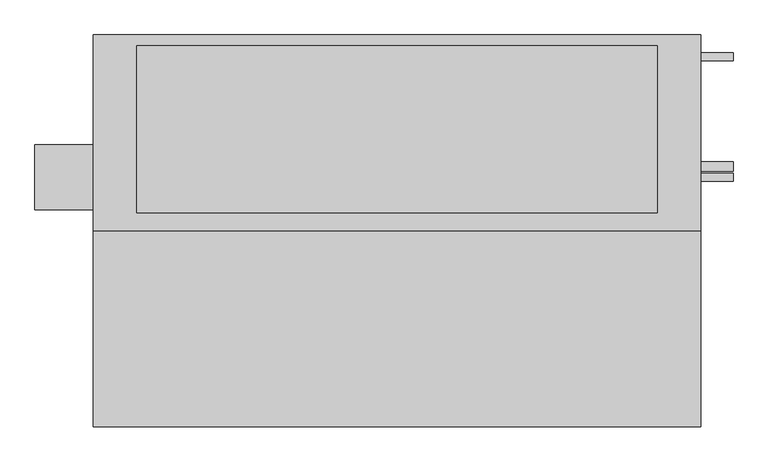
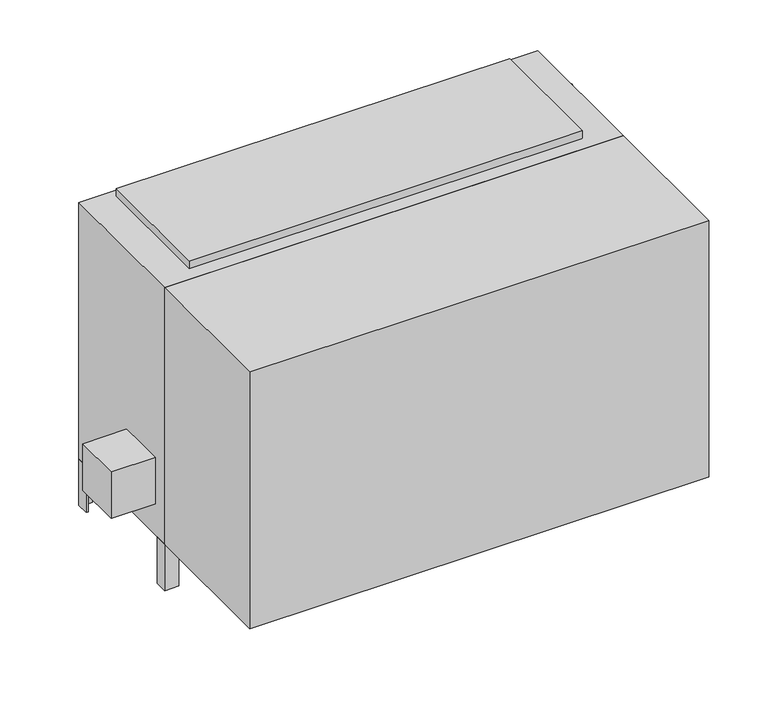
"""IFC4 building model written with IfcOpenShell, lengths in millimetres: proxy geometry, Concealed_High_Capacity_Vertical_Fan_Coil_Unit_-_VEY_-_IEC_-_2-Pipe_Cool-EHeat_RH_2022 : Size 20 - 277v/60Hz/1Ph - 6 Row 14.0kW."""

from ifc_helpers import new_model, si_unit, point, frame, frame_2d, origin, origin_with_axes, place, context, project, spatial, polyline, circle_curve, trimmed, segment, composite_curve, outline, extrude, source, transform, mapped, element, save


def mechanical_equipment_c3129180(model_context):
    return source(origin(), model_context, "Body", "SweptSolid", [
        extrude(outline(polyline([(698.9230703, 747.7868862), (688.975, 779.9602728), (831.1459244, 779.9602728), (808.1239183, 747.7868862), (698.9230703, 747.7868862)])), frame((0.0, -471.4875, 0.0), z_axis=(0.0, 1.0, 0.0), x_axis=(0.0, 0.0, 1.0)), (0.0, 0.0, 1.0), 3.175),
        extrude(outline(polyline([(777.9223557, 786.7186058), (774.7199632, 812.8), (803.9488042, 812.8), (812.0132193, 786.7186058), (777.9223557, 786.7186058)])), frame((0.0, -471.4875, 0.0), z_axis=(0.0, 1.0, 0.0), x_axis=(0.0, 0.0, 1.0)), (0.0, 0.0, 1.0), 3.175),
        extrude(outline(polyline([(726.0588288, 812.8), (722.3933279, 786.7186058), (688.975, 786.7186058), (697.6092372, 812.8), (726.0588288, 812.8)])), frame((0.0, -471.4875, 0.0), z_axis=(0.0, 1.0, 0.0), x_axis=(0.0, 0.0, 1.0)), (0.0, 0.0, 1.0), 3.175),
        extrude(outline(polyline([(765.3739903, 812.8), (767.6558166, 786.7186058), (731.7182681, 786.7186058), (734.4595331, 812.8), (765.3739903, 812.8)])), frame((0.0, -471.4875, 0.0), z_axis=(0.0, 1.0, 0.0), x_axis=(0.0, 0.0, 1.0)), (0.0, 0.0, 1.0), 3.175),
        extrude(outline(polyline([(863.6, -468.3125), (863.6, -925.5125), (-558.8, -925.5125), (-558.8, -468.3125), (863.6, -468.3125)])), origin_with_axes(), (0.0, 0.0, 1.0), 841.375),
        extrude(outline(polyline([(-695.325, -417.5125), (-695.325, -265.1125), (-558.8, -265.1125), (-558.8, -417.5125), (-695.325, -417.5125)])), frame((0.0, 0.0, 101.6), z_axis=(0.0, 0.0, 1.0), x_axis=(1.0, 0.0, 0.0)), (0.0, 0.0, 1.0), 152.4),
        extrude(outline(polyline([(863.6, -46.0375), (857.25, -46.0375), (857.25, -14.2875), (825.5, -14.2875), (825.5, -7.9375), (863.6, -7.9375), (863.6, -46.0375)])), frame((0.0, 0.0, -152.4), z_axis=(0.0, 0.0, 1.0), x_axis=(1.0, 0.0, 0.0)), (0.0, 0.0, 1.0), 152.4),
        extrude(outline(polyline([(-520.7, -7.9375), (-520.7, -14.2875), (-552.45, -14.2875), (-552.45, -46.0375), (-558.8, -46.0375), (-558.8, -7.9375), (-520.7, -7.9375)])), frame((0.0, 0.0, -152.4), z_axis=(0.0, 0.0, 1.0), x_axis=(1.0, 0.0, 0.0)), (0.0, 0.0, 1.0), 152.4),
        extrude(outline(polyline([(825.5, -468.3125), (825.5, -461.9625), (857.25, -461.9625), (857.25, -430.2125), (863.6, -430.2125), (863.6, -468.3125), (825.5, -468.3125)])), frame((0.0, 0.0, -152.4), z_axis=(0.0, 0.0, 1.0), x_axis=(1.0, 0.0, 0.0)), (0.0, 0.0, 1.0), 152.4),
        extrude(outline(polyline([(-558.8, -428.1199163), (-552.45, -428.1199163), (-552.45, -461.9625), (-515.3318533, -461.9625), (-515.3318533, -468.3125), (-558.8, -468.3125), (-558.8, -428.1199163)])), frame((0.0, 0.0, -152.4), z_axis=(0.0, 0.0, 1.0), x_axis=(1.0, 0.0, 0.0)), (0.0, 0.0, 1.0), 152.4),
        extrude(outline(polyline([(762.0, -33.3375), (762.0, -423.8625), (-457.2, -423.8625), (-457.2, -33.3375), (762.0, -33.3375)])), frame((0.0, 0.0, 841.375), z_axis=(0.0, 0.0, 1.0), x_axis=(1.0, 0.0, 0.0)), (0.0, 0.0, 1.0), 25.4),
        extrude(outline(polyline([(838.2, -471.4875), (-533.4, -471.4875), (-533.4, -468.3125), (838.2, -468.3125), (838.2, -471.4875)])), frame((0.0, 0.0, 50.8), z_axis=(0.0, 0.0, 1.0), x_axis=(1.0, 0.0, 0.0)), (0.0, 0.0, 1.0), 304.8),
        extrude(outline(composite_curve([segment(trimmed(circle_curve(frame_2d((-58.7375, 727.075)), 9.525), [point((-49.2125, 727.075))], [point((-68.2625, 727.075))], False, "CARTESIAN"), True, "CONTINUOUS"), segment(trimmed(circle_curve(frame_2d((-58.7375, 727.075)), 9.525), [point((-68.2625, 727.075))], [point((-49.2125, 727.075))], False, "CARTESIAN"), True, "CONTINUOUS")], self_intersect=False)), frame((863.6, 0.0, 0.0), z_axis=(1.0, 0.0, 0.0), x_axis=(0.0, 1.0, 0.0)), (0.0, 0.0, 1.0), 76.2),
        extrude(outline(composite_curve([segment(trimmed(circle_curve(frame_2d((-341.3125, 625.475)), 9.525), [point((-331.7875, 625.475))], [point((-350.8375, 625.475))], False, "CARTESIAN"), True, "CONTINUOUS"), segment(trimmed(circle_curve(frame_2d((-341.3125, 625.475)), 9.525), [point((-350.8375, 625.475))], [point((-331.7875, 625.475))], False, "CARTESIAN"), True, "CONTINUOUS")], self_intersect=False)), frame((863.6, 0.0, 0.0), z_axis=(1.0, 0.0, 0.0), x_axis=(0.0, 1.0, 0.0)), (0.0, 0.0, 1.0), 76.2),
        extrude(outline(composite_curve([segment(trimmed(circle_curve(frame_2d((-315.9125, 536.575)), 11.1125), [point((-304.8, 536.575))], [point((-327.025, 536.575))], False, "CARTESIAN"), True, "CONTINUOUS"), segment(trimmed(circle_curve(frame_2d((-315.9125, 536.575)), 11.1125), [point((-327.025, 536.575))], [point((-304.8, 536.575))], False, "CARTESIAN"), True, "CONTINUOUS")], self_intersect=False)), frame((863.6, 0.0, 0.0), z_axis=(1.0, 0.0, 0.0), x_axis=(0.0, 1.0, 0.0)), (0.0, 0.0, 1.0), 76.2),
        extrude(outline(polyline([(863.6, -7.9375), (863.6, -468.3125), (-558.8, -468.3125), (-558.8, -7.9375), (863.6, -7.9375)])), origin_with_axes(), (0.0, 0.0, 1.0), 841.375),
    ])


if __name__ == "__main__":
    model = new_model("IFC4")
    model_context = context("Model", 3, world=origin())
    ifc_project = project(units=[si_unit("LENGTHUNIT", "METRE", prefix="MILLI")], contexts=[model_context])
    site = spatial("IfcSite", under=ifc_project)
    building = spatial("IfcBuilding", under=site)
    placement = place(None, origin())
    mechanical_equipment_shape = mechanical_equipment_c3129180(model_context)
    element("IfcBuildingElementProxy", 1, Name="Concealed_High_Capacity_Vertical_Fan_Coil_Unit_-_VEY_-_IEC_-_2-Pipe_Cool-EHeat_RH_2022 : Size 20 - 277v/60Hz/1Ph - 6 Row 14.0kW", ObjectType="Concealed_High_Capacity_Vertical_Fan_Coil_Unit_-_VEY_-_IEC_-_2-Pipe_Cool-EHeat_RH_2022 : Size 20 - 277v/60Hz/1Ph - 6 Row 14.0kW", at=placement, inside=building, context=model_context, shape_type="MappedRepresentation", body=[
        mapped(mechanical_equipment_shape, transform((0.0, 0.0, 0.0), x_axis=(1.0, 0.0, 0.0), y_axis=(0.0, 1.0, 0.0), z_axis=(0.0, 0.0, 1.0))),
    ])
    save(model, "model.ifc")
